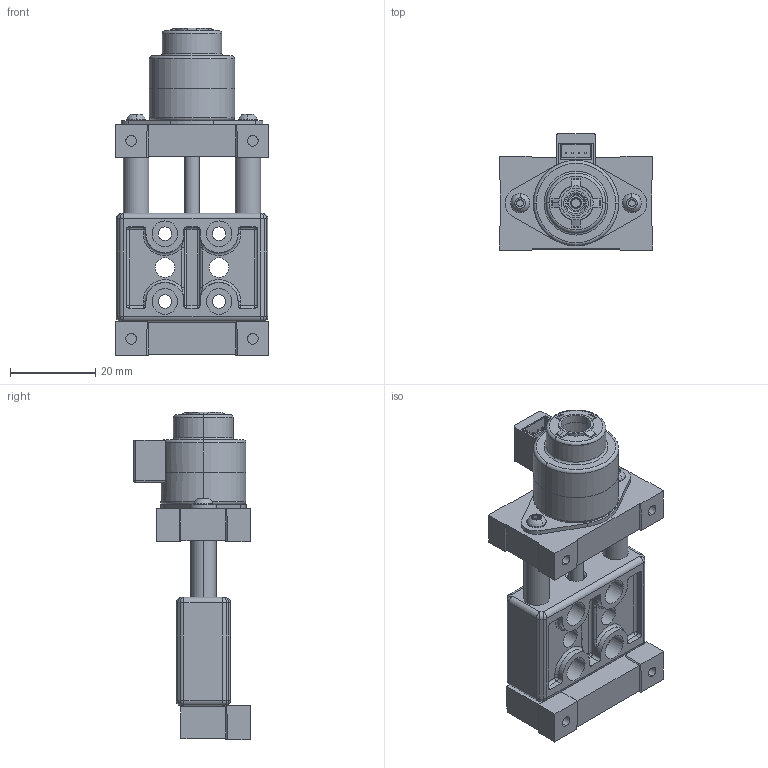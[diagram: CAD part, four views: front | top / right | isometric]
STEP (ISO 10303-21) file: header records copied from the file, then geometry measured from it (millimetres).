
FILE_DESCRIPTION (( 'STEP AP214' ), '1' );
FILE_NAME ('AMETEK-MSA02G-C0020-010-Top-5-No Enc-EPM3-CTH.STEP', '2022-03-07T07:24:28', ( '' ), ( '' ), 'SwSTEP 2.0', 'SolidWorks 2021', '' );
FILE_SCHEMA (( 'AUTOMOTIVE_DESIGN' ));
Length unit declared in the file: millimetre
Products named in the file (13): 01-4918_01-4918-2; 01-4937_01-4937-8; Back_plate_M3; 35-781; AMETEK-MSA02G-C0020-010-Top-5-No Enc-EPM3-CTH; 5011281_WebIt_5011281; plastic for 5011281_Plastic for 5011281; 03-2628_03-2628-2; C_motor; 09-154_99701A115; 26-3393_26-3393-1; 26-3377_M3; B19440-05-020_WebIt
Assembly tree (16 placements, depth 3):
  AMETEK-MSA02G-C0020-010-Top-5-No Enc-EPM3-CTH
    26-3377_M3
    Back_plate_M3
      26-3393_26-3393-1
      01-4937_01-4937-8  x2
      09-154_99701A115
      35-781
    C_motor
      B19440-05-020_WebIt
      01-4937_01-4937-8  x2
    03-2628_03-2628-2  x2
    5011281_WebIt_5011281
      plastic for 5011281_Plastic for 5011281
    01-4918_01-4918-2
Bounding box: 36 x 27.3 x 76.84 mm (x, y, z)
Volume: 18128.1 mm3; surface area: 19222.8 mm2
Topology: 12 solids, 30 shells, 1064 faces, 2763 edges, 1755 vertices
Faces by surface type: cylinder 517, plane 294, cone 140, sphere 50, torus 40, bspline 23
Entity records: 29878 total; most frequent: CARTESIAN_POINT 7726, DIRECTION 4060, ORIENTED_EDGE 3762, EDGE_CURVE 1987, AXIS2_PLACEMENT_3D 1534, VERTEX_POINT 1272, VECTOR 992, LINE 992
